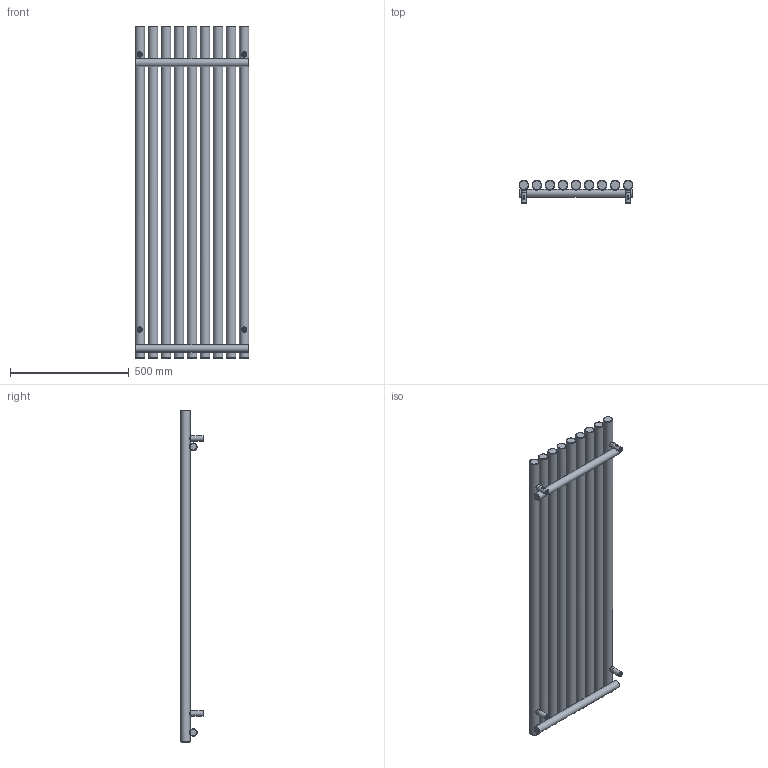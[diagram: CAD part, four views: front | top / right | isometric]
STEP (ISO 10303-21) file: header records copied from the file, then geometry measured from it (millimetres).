
FILE_DESCRIPTION(/* description */ (''),/* implementation_level */ '2;1');
FILE_NAME(/* name */ 'Z:\R\G\P\RGP116 - Grzejniki Geyser\Work\Inventor\Circolo (Rolo V, Rolo H)\ROLO-ROOM\Marketing\Bryły 3D\Zaokrąglone\WLROR140048-ES-CK-(Z).stp',/* time_stamp */ '2024-04-03T08:56:50+02:00',/* author */ ('NowAd'),/* organization */ (''),/* preprocessor_version */ 'ST-DEVELOPER v17.2',/* originating_system */ 'Autodesk Inventor 2019',/* authorisation */ '');
FILE_SCHEMA (('AUTOMOTIVE_DESIGN { 1 0 10303 214 3 1 1 }'));
Length unit declared in the file: millimetre
Products named in the file (3): WLROR140048-ES-CK-(Z); PGROR140048-ES-CK-(K); CK-V-fi40 marketing
Assembly tree (5 placements, depth 2):
  WLROR140048-ES-CK-(Z)
    PGROR140048-ES-CK-(K)
    CK-V-fi40 marketing  x4
Bounding box: 480 x 96.5 x 1400 mm (x, y, z)
Volume: 16645064.7 mm3; surface area: 1725543.9 mm2
Topology: 5 solids, 5 shells, 345 faces, 859 edges, 574 vertices
Faces by surface type: plane 140, cylinder 77, cone 60, torus 50, bspline 18
Full cylindrical faces by diameter (mm): 4.134 x4, 4.48 x4, 6.4 x4, 10 x4, 12 x4, 15.834 x4, 16 x4, 18.631 x2, 22 x4, 32 x2, 40 x9
Entity records: 8451 total; most frequent: CARTESIAN_POINT 4603, DIRECTION 800, ORIENTED_EDGE 756, EDGE_CURVE 378, AXIS2_PLACEMENT_3D 361, VERTEX_POINT 256, EDGE_LOOP 216, CIRCLE 201
